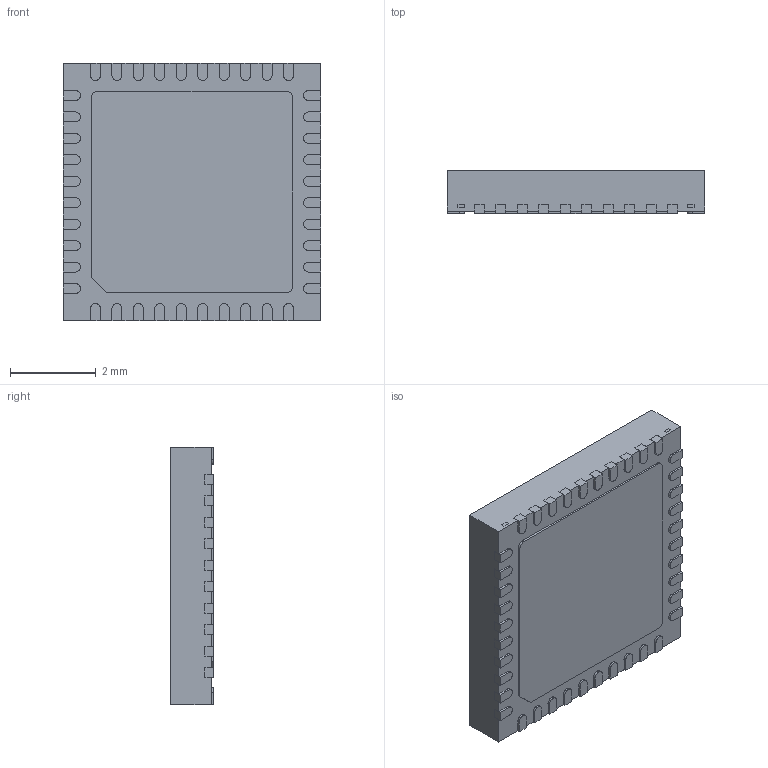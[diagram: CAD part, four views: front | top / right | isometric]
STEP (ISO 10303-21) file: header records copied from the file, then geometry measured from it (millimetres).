
FILE_DESCRIPTION (( 'STEP AP214' ), '1' );
FILE_NAME ('AS6500-FQFM.STEP', '2023-09-28T13:47:30', ( '' ), ( '' ), 'SwSTEP 2.0', 'SolidWorks 2021', '' );
FILE_SCHEMA (( 'AUTOMOTIVE_DESIGN' ));
Length unit declared in the file: millimetre
Products named in the file (1): AS6500-FQFM
Bounding box: 6 x 1 x 6 mm (x, y, z)
Volume: 35.5 mm3; surface area: 166.8 mm2
Topology: 47 solids, 47 shells, 496 faces, 1188 edges, 792 vertices
Faces by surface type: plane 386, cylinder 110
Entity records: 14740 total; most frequent: CARTESIAN_POINT 2477, DIRECTION 2402, ORIENTED_EDGE 2376, EDGE_CURVE 1188, LINE 968, VECTOR 968, VERTEX_POINT 792, AXIS2_PLACEMENT_3D 717
